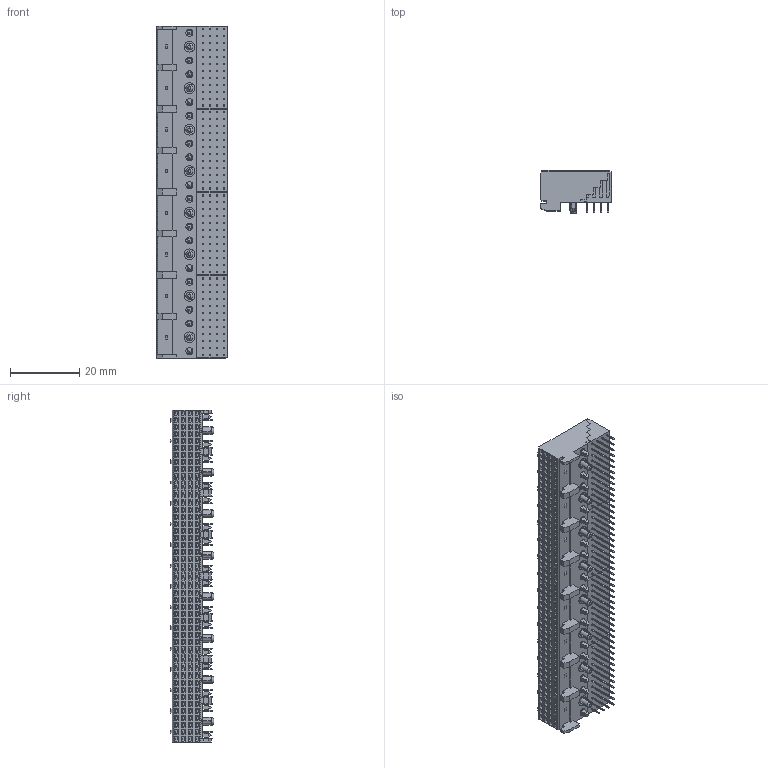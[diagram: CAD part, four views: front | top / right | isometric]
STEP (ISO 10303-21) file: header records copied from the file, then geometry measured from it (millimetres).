
FILE_DESCRIPTION (( 'STEP AP214' ), '1' );
FILE_NAME ('9111-421921C10DU.STEP', '2017-06-29T08:28:02', ( 'admin' ), ( '' ), 'SwSTEP 2.0', 'SolidWorks 2011', '' );
FILE_SCHEMA (( 'AUTOMOTIVE_DESIGN' ));
Length unit declared in the file: millimetre
Products named in the file (1): 9111-421921C10DU
Bounding box: 20.5 x 12.55 x 95.95 mm (x, y, z)
Volume: 16345.5 mm3; surface area: 14508.8 mm2
Topology: 581 solids, 581 shells, 8087 faces, 19677 edges, 13000 vertices
Faces by surface type: plane 6167, cylinder 1840, bspline 80
Entity records: 245561 total; most frequent: CARTESIAN_POINT 52109, ORIENTED_EDGE 39354, DIRECTION 35749, EDGE_CURVE 19677, VECTOR 15573, LINE 15573, VERTEX_POINT 13000, AXIS2_PLACEMENT_3D 10088
